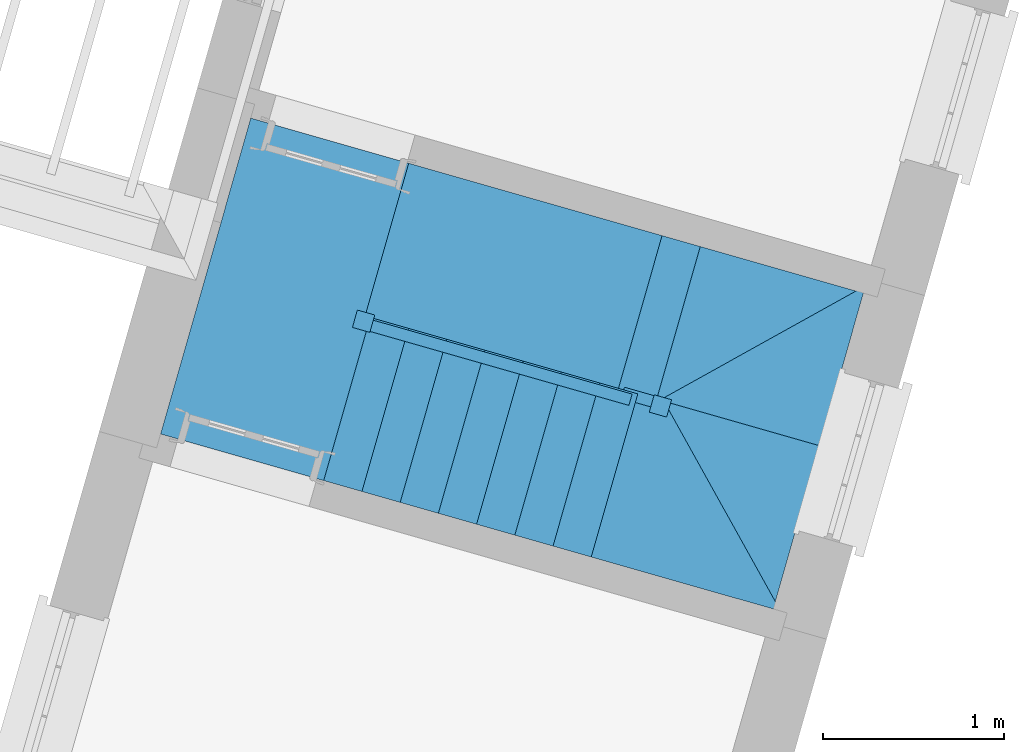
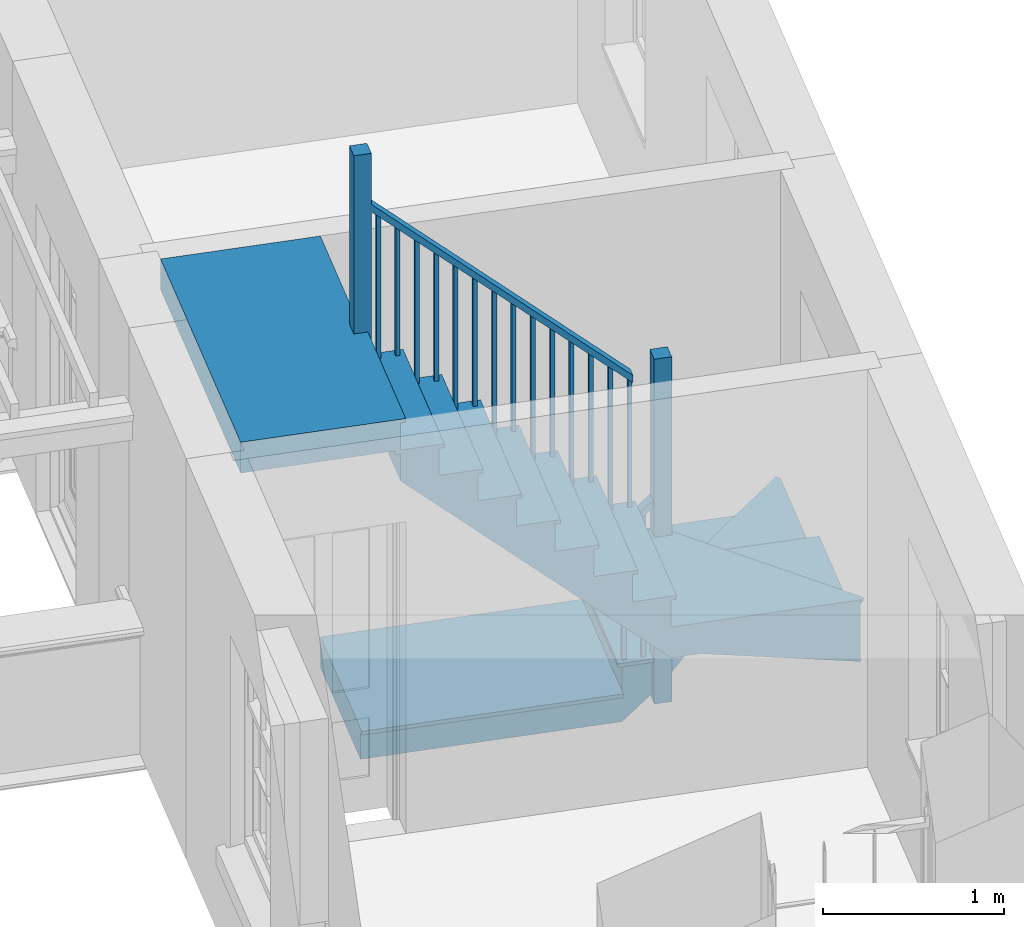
# One storey, part 6 of 6: 1 stair.
"""IFC4 building model written with IfcOpenShell, lengths in metres."""

from ifc_helpers import new_model, si_unit, frame, origin, origin_with_axes, place, context, subcontext, project, spatial, faceted_brep, element, save


model = new_model("IFC4")

# Units and contexts
model_context = context("Model", 3, world=origin_with_axes())
body_context = subcontext(model_context, "Body", "Model", "MODEL_VIEW")
ifc_project = project(units=[si_unit("PLANEANGLEUNIT", "RADIAN"), si_unit("MASSUNIT", "GRAM", prefix="KILO"), si_unit("FORCEUNIT", "NEWTON", prefix="KILO"), si_unit("LENGTHUNIT", "METRE"), si_unit("AREAUNIT", "SQUARE_METRE"), si_unit("VOLUMEUNIT", "CUBIC_METRE")], contexts=[model_context, model_context])

# Sites, building, storey
site_1_placement = place(None, origin_with_axes())
site_1 = spatial("IfcSite", under=ifc_project, at=site_1_placement, Name="Tamar")
site_2_placement = place(site_1_placement, origin_with_axes())
site_2 = spatial("IfcSite", under=site_1, at=site_2_placement, Name="Site plot-20", CompositionType="ELEMENT")
building_placement = place(None, origin_with_axes())
building = spatial("IfcBuilding", under=site_2, at=building_placement, Name="Building plot-20", CompositionType="ELEMENT")
storey_placement = place(None, frame((0.0, 0.0, 29.15), z_axis=(0.0, 0.0, 1.0), x_axis=(1.0, 0.0, 0.0)))
storey = spatial("IfcBuildingStorey", under=building, at=storey_placement, Name="plot-20 1", CompositionType="ELEMENT", Elevation=29.15)

# Stair
stair_placement = place(None, origin())
element("IfcStair", 1, at=stair_placement, inside=storey, Name="Stair", PredefinedType="NOTDEFINED", context=body_context, shape_type="Brep", body=[
    faceted_brep([(278.266774, 288.230048, 31.642308), (278.017167, 287.355896, 31.642308), (278.228712, 287.295491, 31.642308), (278.478319, 288.169643, 31.642308), (278.478319, 288.169643, 31.226923), (278.228712, 287.295491, 31.226923), (278.017167, 287.355896, 31.434615), (278.266774, 288.230048, 31.434615)], [[[0, 1, 2, 3]], [[4, 5, 6, 7]], [[7, 6, 1, 0]], [[1, 6, 5, 2]], [[5, 4, 3, 2]], [[3, 4, 7, 0]]]),
    faceted_brep([(278.228712, 287.295491, 31.617308), (278.257559, 287.287254, 31.617308), (278.228712, 287.295491, 31.642308), (277.98832, 287.364133, 31.617308), (278.017167, 287.355896, 31.617308), (278.017167, 287.355896, 31.642308), (278.257559, 287.287254, 31.642308), (277.98832, 287.364133, 31.642308), (278.515403, 288.190253, 31.642308), (278.478319, 288.169643, 31.642308), (278.478319, 288.169643, 31.617308), (278.515403, 288.190253, 31.617308), (278.246164, 288.267133, 31.642308), (278.266774, 288.230048, 31.642308), (278.266774, 288.230048, 31.617308), (278.246164, 288.267133, 31.617308)], [[[0, 1, 2]], [[3, 4, 5]], [[1, 6, 2]], [[7, 3, 5]], [[2, 6, 8, 9]], [[0, 2, 9, 10]], [[1, 0, 10, 11]], [[6, 1, 11, 8]], [[9, 8, 12, 13]], [[10, 9, 13, 14]], [[11, 10, 14, 15]], [[8, 11, 15, 12]], [[13, 12, 7, 5]], [[14, 13, 5, 4]], [[15, 14, 4, 3]], [[12, 15, 3, 7]]]),
    faceted_brep([(278.478319, 288.169643, 32.542308), (278.45428, 288.176508, 32.542308), (278.447416, 288.152469, 32.542308), (278.471455, 288.145604, 32.542308), (278.471455, 288.145604, 31.642308), (278.447416, 288.152469, 31.642308), (278.45428, 288.176508, 31.642308), (278.478319, 288.169643, 31.642308)], [[[0, 1, 2, 3]], [[4, 5, 6, 7]], [[7, 6, 1, 0]], [[6, 5, 2, 1]], [[5, 4, 3, 2]], [[4, 7, 0, 3]]]),
    faceted_brep([(278.372547, 288.199846, 32.646154), (278.348508, 288.20671, 32.646154), (278.341643, 288.182671, 32.646154), (278.365683, 288.175807, 32.646154), (278.365683, 288.175807, 31.642308), (278.341643, 288.182671, 31.642308), (278.348508, 288.20671, 31.642308), (278.372547, 288.199846, 31.642308)], [[[0, 1, 2, 3]], [[4, 5, 6, 7]], [[7, 6, 1, 0]], [[6, 5, 2, 1]], [[5, 4, 3, 2]], [[4, 7, 0, 3]]]),
    faceted_brep([(278.465964, 288.126373, 32.492308), (278.483811, 288.188875, 32.492308), (278.483811, 288.188875, 32.542308), (278.465964, 288.126373, 32.542308), (278.272266, 288.24928, 32.7), (278.254419, 288.186778, 32.7), (278.254419, 288.186778, 32.75), (278.272266, 288.24928, 32.75)], [[[0, 1, 2, 3]], [[4, 5, 6, 7]], [[0, 5, 4, 1]], [[3, 2, 7, 6]], [[0, 3, 6, 5]], [[2, 1, 4, 7]]]),
    faceted_brep([(278.478319, 288.169643, 31.434615), (278.228712, 287.295491, 31.434615), (278.440257, 287.235086, 31.434615), (278.689864, 288.109239, 31.434615), (278.689864, 288.109239, 31.019231), (278.440257, 287.235086, 31.019231), (278.228712, 287.295491, 31.226923), (278.478319, 288.169643, 31.226923)], [[[0, 1, 2, 3]], [[4, 5, 6, 7]], [[7, 6, 1, 0]], [[1, 6, 5, 2]], [[5, 4, 3, 2]], [[3, 4, 7, 0]]]),
    faceted_brep([(278.469104, 287.226849, 31.409615), (278.469104, 287.226849, 31.434615), (278.440257, 287.235086, 31.409615), (278.199865, 287.303728, 31.434615), (278.199865, 287.303728, 31.409615), (278.228712, 287.295491, 31.409615), (278.440257, 287.235086, 31.434615), (278.228712, 287.295491, 31.434615), (278.726948, 288.129848, 31.434615), (278.689864, 288.109239, 31.434615), (278.689864, 288.109239, 31.409615), (278.726948, 288.129848, 31.409615), (278.457709, 288.206728, 31.434615), (278.478319, 288.169643, 31.434615), (278.478319, 288.169643, 31.409615), (278.457709, 288.206728, 31.409615)], [[[0, 1, 2]], [[3, 4, 5]], [[2, 1, 6]], [[3, 5, 7]], [[6, 1, 8, 9]], [[2, 6, 9, 10]], [[0, 2, 10, 11]], [[1, 0, 11, 8]], [[9, 8, 12, 13]], [[10, 9, 13, 14]], [[11, 10, 14, 15]], [[8, 11, 15, 12]], [[13, 12, 3, 7]], [[14, 13, 7, 5]], [[15, 14, 5, 4]], [[12, 15, 4, 3]]]),
    faceted_brep([(278.689864, 288.109239, 32.334615), (278.665825, 288.116103, 32.334615), (278.658961, 288.092064, 32.334615), (278.683, 288.085199, 32.334615), (278.683, 288.085199, 31.434615), (278.658961, 288.092064, 31.434615), (278.665825, 288.116103, 31.434615), (278.689864, 288.109239, 31.434615)], [[[0, 1, 2, 3]], [[4, 5, 6, 7]], [[7, 6, 1, 0]], [[6, 5, 2, 1]], [[5, 4, 3, 2]], [[4, 7, 0, 3]]]),
    faceted_brep([(278.584092, 288.139441, 32.438462), (278.560053, 288.146305, 32.438462), (278.553188, 288.122266, 32.438462), (278.577228, 288.115402, 32.438462), (278.577228, 288.115402, 31.434615), (278.553188, 288.122266, 31.434615), (278.560053, 288.146305, 31.434615), (278.584092, 288.139441, 31.434615)], [[[0, 1, 2, 3]], [[4, 5, 6, 7]], [[7, 6, 1, 0]], [[6, 5, 2, 1]], [[5, 4, 3, 2]], [[4, 7, 0, 3]]]),
    faceted_brep([(278.677509, 288.065968, 32.284615), (278.695356, 288.12847, 32.284615), (278.695356, 288.12847, 32.334615), (278.677509, 288.065968, 32.334615), (278.483811, 288.188875, 32.492308), (278.465964, 288.126373, 32.492308), (278.465964, 288.126373, 32.542308), (278.483811, 288.188875, 32.542308)], [[[0, 1, 2, 3]], [[4, 5, 6, 7]], [[0, 5, 4, 1]], [[3, 2, 7, 6]], [[0, 3, 6, 5]], [[2, 1, 4, 7]]]),
    faceted_brep([(278.689864, 288.109239, 31.226923), (278.440257, 287.235086, 31.226923), (278.651802, 287.174681, 31.226923), (278.901409, 288.048834, 31.226923), (278.901409, 288.048834, 30.811538), (278.651802, 287.174681, 30.811538), (278.440257, 287.235086, 31.019231), (278.689864, 288.109239, 31.019231)], [[[0, 1, 2, 3]], [[4, 5, 6, 7]], [[7, 6, 1, 0]], [[1, 6, 5, 2]], [[5, 4, 3, 2]], [[3, 4, 7, 0]]]),
    faceted_brep([(278.651802, 287.174681, 31.201923), (278.680649, 287.166444, 31.201923), (278.651802, 287.174681, 31.226923), (278.41141, 287.243323, 31.201923), (278.440257, 287.235086, 31.201923), (278.440257, 287.235086, 31.226923), (278.680649, 287.166444, 31.226923), (278.41141, 287.243323, 31.226923), (278.938493, 288.069444, 31.226923), (278.901409, 288.048834, 31.226923), (278.901409, 288.048834, 31.201923), (278.938493, 288.069444, 31.201923), (278.669254, 288.146323, 31.226923), (278.689864, 288.109239, 31.226923), (278.689864, 288.109239, 31.201923), (278.669254, 288.146323, 31.201923)], [[[0, 1, 2]], [[3, 4, 5]], [[1, 6, 2]], [[7, 3, 5]], [[2, 6, 8, 9]], [[0, 2, 9, 10]], [[1, 0, 10, 11]], [[6, 1, 11, 8]], [[9, 8, 12, 13]], [[10, 9, 13, 14]], [[11, 10, 14, 15]], [[8, 11, 15, 12]], [[13, 12, 7, 5]], [[14, 13, 5, 4]], [[15, 14, 4, 3]], [[12, 15, 3, 7]]]),
    faceted_brep([(278.901409, 288.048834, 32.126923), (278.87737, 288.055698, 32.126923), (278.870506, 288.031659, 32.126923), (278.894545, 288.024794, 32.126923), (278.894545, 288.024794, 31.226923), (278.870506, 288.031659, 31.226923), (278.87737, 288.055698, 31.226923), (278.901409, 288.048834, 31.226923)], [[[0, 1, 2, 3]], [[4, 5, 6, 7]], [[7, 6, 1, 0]], [[6, 5, 2, 1]], [[5, 4, 3, 2]], [[4, 7, 0, 3]]]),
    faceted_brep([(278.795637, 288.079036, 32.230769), (278.771597, 288.0859, 32.230769), (278.764733, 288.061861, 32.230769), (278.788772, 288.054997, 32.230769), (278.788772, 288.054997, 31.226923), (278.764733, 288.061861, 31.226923), (278.771597, 288.0859, 31.226923), (278.795637, 288.079036, 31.226923)], [[[0, 1, 2, 3]], [[4, 5, 6, 7]], [[7, 6, 1, 0]], [[6, 5, 2, 1]], [[5, 4, 3, 2]], [[4, 7, 0, 3]]]),
    faceted_brep([(278.889053, 288.005563, 32.076923), (278.9069, 288.068065, 32.076923), (278.9069, 288.068065, 32.126923), (278.889053, 288.005563, 32.126923), (278.695356, 288.12847, 32.284615), (278.677509, 288.065968, 32.284615), (278.677509, 288.065968, 32.334615), (278.695356, 288.12847, 32.334615)], [[[0, 1, 2, 3]], [[4, 5, 6, 7]], [[0, 5, 4, 1]], [[3, 2, 7, 6]], [[0, 3, 6, 5]], [[2, 1, 4, 7]]]),
    faceted_brep([(278.901409, 288.048834, 31.019231), (278.651802, 287.174681, 31.019231), (278.863347, 287.114276, 31.019231), (279.112954, 287.988429, 31.019231), (279.112954, 287.988429, 30.603846), (278.863347, 287.114276, 30.603846), (278.651802, 287.174681, 30.811538), (278.901409, 288.048834, 30.811538)], [[[0, 1, 2, 3]], [[4, 5, 6, 7]], [[7, 6, 1, 0]], [[1, 6, 5, 2]], [[5, 4, 3, 2]], [[3, 4, 7, 0]]]),
    faceted_brep([(278.892194, 287.106039, 30.994231), (278.892194, 287.106039, 31.019231), (278.863347, 287.114276, 30.994231), (278.622955, 287.182918, 31.019231), (278.622955, 287.182918, 30.994231), (278.651802, 287.174681, 30.994231), (278.863347, 287.114276, 31.019231), (278.651802, 287.174681, 31.019231), (279.150038, 288.009039, 31.019231), (279.112954, 287.988429, 31.019231), (279.112954, 287.988429, 30.994231), (279.150038, 288.009039, 30.994231), (278.880799, 288.085918, 31.019231), (278.901409, 288.048834, 31.019231), (278.901409, 288.048834, 30.994231), (278.880799, 288.085918, 30.994231)], [[[0, 1, 2]], [[3, 4, 5]], [[2, 1, 6]], [[3, 5, 7]], [[6, 1, 8, 9]], [[2, 6, 9, 10]], [[0, 2, 10, 11]], [[1, 0, 11, 8]], [[9, 8, 12, 13]], [[10, 9, 13, 14]], [[11, 10, 14, 15]], [[8, 11, 15, 12]], [[13, 12, 3, 7]], [[14, 13, 7, 5]], [[15, 14, 5, 4]], [[12, 15, 4, 3]]]),
    faceted_brep([(279.112954, 287.988429, 31.919231), (279.088915, 287.995293, 31.919231), (279.082051, 287.971254, 31.919231), (279.10609, 287.964389, 31.919231), (279.10609, 287.964389, 31.019231), (279.082051, 287.971254, 31.019231), (279.088915, 287.995293, 31.019231), (279.112954, 287.988429, 31.019231)], [[[0, 1, 2, 3]], [[4, 5, 6, 7]], [[7, 6, 1, 0]], [[6, 5, 2, 1]], [[5, 4, 3, 2]], [[4, 7, 0, 3]]]),
    faceted_brep([(279.007182, 288.018631, 32.023077), (278.983142, 288.025495, 32.023077), (278.976278, 288.001456, 32.023077), (279.000317, 287.994592, 32.023077), (279.000317, 287.994592, 31.019231), (278.976278, 288.001456, 31.019231), (278.983142, 288.025495, 31.019231), (279.007182, 288.018631, 31.019231)], [[[0, 1, 2, 3]], [[4, 5, 6, 7]], [[7, 6, 1, 0]], [[6, 5, 2, 1]], [[5, 4, 3, 2]], [[4, 7, 0, 3]]]),
    faceted_brep([(279.100598, 287.945158, 31.869231), (279.118445, 288.00766, 31.869231), (279.118445, 288.00766, 31.919231), (279.100598, 287.945158, 31.919231), (278.9069, 288.068065, 32.076923), (278.889053, 288.005563, 32.076923), (278.889053, 288.005563, 32.126923), (278.9069, 288.068065, 32.126923)], [[[0, 1, 2, 3]], [[4, 5, 6, 7]], [[0, 5, 4, 1]], [[3, 2, 7, 6]], [[0, 3, 6, 5]], [[2, 1, 4, 7]]]),
    faceted_brep([(279.112954, 287.988429, 30.811538), (278.863347, 287.114276, 30.811538), (279.074891, 287.053871, 30.811538), (279.324499, 287.928024, 30.811538), (279.324499, 287.928024, 30.396154), (279.074891, 287.053871, 30.396154), (278.863347, 287.114276, 30.603846), (279.112954, 287.988429, 30.603846)], [[[0, 1, 2, 3]], [[4, 5, 6, 7]], [[7, 6, 1, 0]], [[1, 6, 5, 2]], [[5, 4, 3, 2]], [[3, 4, 7, 0]]]),
    faceted_brep([(279.074891, 287.053871, 30.786538), (279.103739, 287.045634, 30.786538), (279.074891, 287.053871, 30.811538), (278.8345, 287.122513, 30.786538), (278.863347, 287.114276, 30.786538), (278.863347, 287.114276, 30.811538), (279.103739, 287.045634, 30.811538), (278.8345, 287.122513, 30.811538), (279.361583, 287.948634, 30.811538), (279.324499, 287.928024, 30.811538), (279.324499, 287.928024, 30.786538), (279.361583, 287.948634, 30.786538), (279.092344, 288.025513, 30.811538), (279.112954, 287.988429, 30.811538), (279.112954, 287.988429, 30.786538), (279.092344, 288.025513, 30.786538)], [[[0, 1, 2]], [[3, 4, 5]], [[1, 6, 2]], [[7, 3, 5]], [[2, 6, 8, 9]], [[0, 2, 9, 10]], [[1, 0, 10, 11]], [[6, 1, 11, 8]], [[9, 8, 12, 13]], [[10, 9, 13, 14]], [[11, 10, 14, 15]], [[8, 11, 15, 12]], [[13, 12, 7, 5]], [[14, 13, 5, 4]], [[15, 14, 4, 3]], [[12, 15, 3, 7]]]),
    faceted_brep([(279.324499, 287.928024, 31.711538), (279.30046, 287.934888, 31.711538), (279.293595, 287.910849, 31.711538), (279.317635, 287.903984, 31.711538), (279.317635, 287.903984, 30.811538), (279.293595, 287.910849, 30.811538), (279.30046, 287.934888, 30.811538), (279.324499, 287.928024, 30.811538)], [[[0, 1, 2, 3]], [[4, 5, 6, 7]], [[7, 6, 1, 0]], [[6, 5, 2, 1]], [[5, 4, 3, 2]], [[4, 7, 0, 3]]]),
    faceted_brep([(279.218726, 287.958226, 31.815385), (279.194687, 287.96509, 31.815385), (279.187823, 287.941051, 31.815385), (279.211862, 287.934187, 31.815385), (279.211862, 287.934187, 30.811538), (279.187823, 287.941051, 30.811538), (279.194687, 287.96509, 30.811538), (279.218726, 287.958226, 30.811538)], [[[0, 1, 2, 3]], [[4, 5, 6, 7]], [[7, 6, 1, 0]], [[6, 5, 2, 1]], [[5, 4, 3, 2]], [[4, 7, 0, 3]]]),
    faceted_brep([(279.312143, 287.884753, 31.661538), (279.32999, 287.947255, 31.661538), (279.32999, 287.947255, 31.711538), (279.312143, 287.884753, 31.711538), (279.118445, 288.00766, 31.869231), (279.100598, 287.945158, 31.869231), (279.100598, 287.945158, 31.919231), (279.118445, 288.00766, 31.919231)], [[[0, 1, 2, 3]], [[4, 5, 6, 7]], [[0, 5, 4, 1]], [[3, 2, 7, 6]], [[0, 3, 6, 5]], [[2, 1, 4, 7]]]),
    faceted_brep([(279.324499, 287.928024, 30.603846), (279.074891, 287.053871, 30.603846), (279.286436, 286.993466, 30.603846), (279.536044, 287.867619, 30.603846), (279.536044, 287.867619, 30.188462), (279.286436, 286.993466, 30.188462), (279.074891, 287.053871, 30.396154), (279.324499, 287.928024, 30.396154)], [[[0, 1, 2, 3]], [[4, 5, 6, 7]], [[7, 6, 1, 0]], [[1, 6, 5, 2]], [[5, 4, 3, 2]], [[3, 4, 7, 0]]]),
    faceted_brep([(279.286436, 286.993466, 30.578846), (279.315283, 286.985229, 30.578846), (279.286436, 286.993466, 30.603846), (279.046044, 287.062108, 30.578846), (279.074891, 287.053871, 30.578846), (279.074891, 287.053871, 30.603846), (279.315283, 286.985229, 30.603846), (279.046044, 287.062108, 30.603846), (279.573128, 287.888229, 30.603846), (279.536044, 287.867619, 30.603846), (279.536044, 287.867619, 30.578846), (279.573128, 287.888229, 30.578846), (279.303889, 287.965108, 30.603846), (279.324499, 287.928024, 30.603846), (279.324499, 287.928024, 30.578846), (279.303889, 287.965108, 30.578846)], [[[0, 1, 2]], [[3, 4, 5]], [[1, 6, 2]], [[7, 3, 5]], [[2, 6, 8, 9]], [[0, 2, 9, 10]], [[1, 0, 10, 11]], [[6, 1, 11, 8]], [[9, 8, 12, 13]], [[10, 9, 13, 14]], [[11, 10, 14, 15]], [[8, 11, 15, 12]], [[13, 12, 7, 5]], [[14, 13, 5, 4]], [[15, 14, 4, 3]], [[12, 15, 3, 7]]]),
    faceted_brep([(279.536044, 287.867619, 31.503846), (279.512005, 287.874483, 31.503846), (279.50514, 287.850444, 31.503846), (279.52918, 287.843579, 31.503846), (279.52918, 287.843579, 30.603846), (279.50514, 287.850444, 30.603846), (279.512005, 287.874483, 30.603846), (279.536044, 287.867619, 30.603846)], [[[0, 1, 2, 3]], [[4, 5, 6, 7]], [[7, 6, 1, 0]], [[6, 5, 2, 1]], [[5, 4, 3, 2]], [[4, 7, 0, 3]]]),
    faceted_brep([(279.430271, 287.897821, 31.607692), (279.406232, 287.904685, 31.607692), (279.399368, 287.880646, 31.607692), (279.423407, 287.873782, 31.607692), (279.423407, 287.873782, 30.603846), (279.399368, 287.880646, 30.603846), (279.406232, 287.904685, 30.603846), (279.430271, 287.897821, 30.603846)], [[[0, 1, 2, 3]], [[4, 5, 6, 7]], [[7, 6, 1, 0]], [[6, 5, 2, 1]], [[5, 4, 3, 2]], [[4, 7, 0, 3]]]),
    faceted_brep([(279.523688, 287.824348, 31.453846), (279.541535, 287.88685, 31.453846), (279.541535, 287.88685, 31.503846), (279.523688, 287.824348, 31.503846), (279.32999, 287.947255, 31.661538), (279.312143, 287.884753, 31.661538), (279.312143, 287.884753, 31.711538), (279.32999, 287.947255, 31.711538)], [[[0, 1, 2, 3]], [[4, 5, 6, 7]], [[0, 5, 4, 1]], [[3, 2, 7, 6]], [[0, 3, 6, 5]], [[2, 1, 4, 7]]]),
    faceted_brep([(279.536044, 287.867619, 30.396154), (279.286436, 286.993466, 30.396154), (279.497981, 286.933061, 30.396154), (279.747589, 287.807214, 30.396154), (279.747589, 287.807214, 29.980769), (279.497981, 286.933061, 29.980769), (279.286436, 286.993466, 30.188462), (279.536044, 287.867619, 30.188462)], [[[0, 1, 2, 3]], [[4, 5, 6, 7]], [[7, 6, 1, 0]], [[1, 6, 5, 2]], [[5, 4, 3, 2]], [[3, 4, 7, 0]]]),
    faceted_brep([(279.526828, 286.924824, 30.371154), (279.526828, 286.924824, 30.396154), (279.497981, 286.933061, 30.371154), (279.257589, 287.001703, 30.396154), (279.257589, 287.001703, 30.371154), (279.286436, 286.993466, 30.371154), (279.497981, 286.933061, 30.396154), (279.286436, 286.993466, 30.396154), (279.784673, 287.827824, 30.396154), (279.747589, 287.807214, 30.396154), (279.747589, 287.807214, 30.371154), (279.784673, 287.827824, 30.371154), (279.515434, 287.904703, 30.396154), (279.536044, 287.867619, 30.396154), (279.536044, 287.867619, 30.371154), (279.515434, 287.904703, 30.371154)], [[[0, 1, 2]], [[3, 4, 5]], [[2, 1, 6]], [[3, 5, 7]], [[6, 1, 8, 9]], [[2, 6, 9, 10]], [[0, 2, 10, 11]], [[1, 0, 11, 8]], [[9, 8, 12, 13]], [[10, 9, 13, 14]], [[11, 10, 14, 15]], [[8, 11, 15, 12]], [[13, 12, 3, 7]], [[14, 13, 7, 5]], [[15, 14, 5, 4]], [[12, 15, 4, 3]]]),
    faceted_brep([(279.747589, 287.807214, 31.296154), (279.723549, 287.814078, 31.296154), (279.716685, 287.790039, 31.296154), (279.740724, 287.783174, 31.296154), (279.740724, 287.783174, 30.396154), (279.716685, 287.790039, 30.396154), (279.723549, 287.814078, 30.396154), (279.747589, 287.807214, 30.396154)], [[[0, 1, 2, 3]], [[4, 5, 6, 7]], [[7, 6, 1, 0]], [[6, 5, 2, 1]], [[5, 4, 3, 2]], [[4, 7, 0, 3]]]),
    faceted_brep([(279.641816, 287.837416, 31.4), (279.617777, 287.84428, 31.4), (279.610913, 287.820241, 31.4), (279.634952, 287.813377, 31.4), (279.634952, 287.813377, 30.396154), (279.610913, 287.820241, 30.396154), (279.617777, 287.84428, 30.396154), (279.641816, 287.837416, 30.396154)], [[[0, 1, 2, 3]], [[4, 5, 6, 7]], [[7, 6, 1, 0]], [[6, 5, 2, 1]], [[5, 4, 3, 2]], [[4, 7, 0, 3]]]),
    faceted_brep([(279.735233, 287.763943, 31.246154), (279.75308, 287.826445, 31.246154), (279.75308, 287.826445, 31.296154), (279.735233, 287.763943, 31.296154), (279.541535, 287.88685, 31.453846), (279.523688, 287.824348, 31.453846), (279.523688, 287.824348, 31.503846), (279.541535, 287.88685, 31.503846)], [[[0, 1, 2, 3]], [[4, 5, 6, 7]], [[0, 5, 4, 1]], [[3, 2, 7, 6]], [[0, 3, 6, 5]], [[2, 1, 4, 7]]]),
    faceted_brep([(279.747589, 287.807214, 30.188462), (279.497981, 286.933061, 30.188462), (279.660089, 286.886773, 30.188462), (279.909697, 287.760925, 30.188462), (279.909697, 287.760925, 29.980769), (279.660089, 286.886773, 29.980769), (279.497981, 286.933061, 29.980769), (279.747589, 287.807214, 29.980769)], [[[0, 1, 2, 3]], [[4, 5, 6, 7]], [[7, 6, 1, 0]], [[6, 5, 2, 1]], [[5, 4, 3, 2]], [[4, 7, 0, 3]]]),
    faceted_brep([(279.909697, 287.760925, 30.163462), (279.917934, 287.789772, 30.163462), (279.909697, 287.760925, 30.188462), (279.755826, 287.836061, 30.163462), (279.747589, 287.807214, 30.163462), (279.747589, 287.807214, 30.188462), (279.917934, 287.789772, 30.188462), (279.755826, 287.836061, 30.188462)], [[[0, 1, 2]], [[3, 4, 5]], [[1, 6, 2]], [[7, 3, 5]], [[2, 6, 7, 5]], [[0, 2, 5, 4]], [[1, 0, 4, 3]], [[6, 1, 3, 7]]]),
    faceted_brep([(279.971503, 287.795275, 31.388462), (279.875347, 287.822732, 31.388462), (279.84789, 287.726575, 31.388462), (279.944047, 287.699118, 31.388462), (279.944047, 287.699118, 30.188462), (279.84789, 287.726575, 30.188462), (279.875347, 287.822732, 30.188462), (279.971503, 287.795275, 30.188462)], [[[0, 1, 2, 3]], [[4, 5, 6, 7]], [[7, 6, 1, 0]], [[6, 5, 2, 1]], [[5, 4, 3, 2]], [[4, 7, 0, 3]]]),
    faceted_brep([(279.660089, 286.886773, 30.188462), (280.534242, 286.637165, 30.188462), (279.909697, 287.760925, 30.188462), (279.909697, 287.760925, 29.773077), (280.534242, 286.637165, 29.773077), (279.660089, 286.886773, 29.980769)], [[[0, 1, 2]], [[3, 4, 5]], [[0, 5, 4, 1]], [[4, 3, 2, 1]], [[2, 3, 5, 0]]]),
    faceted_brep([(280.560464, 286.651739, 30.163462), (280.560464, 286.651739, 30.188462), (280.534242, 286.637165, 30.163462), (279.935919, 287.775498, 30.188462), (279.935919, 287.775498, 30.163462), (279.909697, 287.760925, 30.163462), (280.534242, 286.637165, 30.188462), (279.909697, 287.760925, 30.188462)], [[[0, 1, 2]], [[3, 4, 5]], [[2, 1, 6]], [[3, 5, 7]], [[6, 1, 3, 7]], [[2, 6, 7, 5]], [[0, 2, 5, 4]], [[1, 0, 4, 3]]]),
    faceted_brep([(280.534242, 286.637165, 29.980769), (280.783849, 287.511318, 29.980769), (279.909697, 287.760925, 29.980769), (279.909697, 287.760925, 29.565385), (280.783849, 287.511318, 29.565385), (280.534242, 286.637165, 29.773077)], [[[0, 1, 2]], [[3, 4, 5]], [[0, 5, 4, 1]], [[4, 3, 2, 1]], [[2, 3, 5, 0]]]),
    faceted_brep([(280.783849, 287.511318, 29.955769), (280.792086, 287.540165, 29.955769), (280.783849, 287.511318, 29.980769), (279.917934, 287.789772, 29.955769), (279.909697, 287.760925, 29.955769), (279.909697, 287.760925, 29.980769), (280.792086, 287.540165, 29.980769), (279.917934, 287.789772, 29.980769)], [[[0, 1, 2]], [[3, 4, 5]], [[1, 6, 2]], [[7, 3, 5]], [[2, 6, 7, 5]], [[0, 2, 5, 4]], [[1, 0, 4, 3]], [[6, 1, 3, 7]]]),
    faceted_brep([(279.971503, 287.795275, 30.188462), (279.875347, 287.822732, 30.188462), (279.84789, 287.726575, 30.188462), (279.944047, 287.699118, 30.188462), (279.944047, 287.699118, 29.480769), (279.84789, 287.726575, 29.480769), (279.875347, 287.822732, 29.480769), (279.971503, 287.795275, 29.480769)], [[[0, 1, 2, 3]], [[4, 5, 6, 7]], [[7, 6, 1, 0]], [[6, 5, 2, 1]], [[5, 4, 3, 2]], [[4, 7, 0, 3]]]),
    faceted_brep([(279.909697, 287.760925, 29.565385), (280.783849, 287.511318, 29.565385), (280.783849, 287.511318, 29.773077), (279.909697, 287.760925, 29.773077)], [[[0, 1, 2, 3]], [[1, 0, 3, 2]]]),
    faceted_brep([(279.909697, 287.760925, 29.748077), (279.909697, 287.730925, 29.748077), (279.909697, 287.760925, 29.773077), (279.909697, 287.730925, 29.773077)], [[[0, 1, 2]], [[1, 0, 2]], [[1, 3, 2]], [[3, 1, 2]]]),
    faceted_brep([(279.875347, 287.822732, 30.973077), (279.84789, 287.726575, 30.973077), (279.944047, 287.699118, 30.973077), (279.971503, 287.795275, 30.973077), (279.971503, 287.795275, 29.773077), (279.944047, 287.699118, 29.773077), (279.84789, 287.726575, 29.773077), (279.875347, 287.822732, 29.773077)], [[[0, 1, 2, 3]], [[4, 5, 6, 7]], [[7, 6, 1, 0]], [[6, 5, 2, 1]], [[5, 4, 3, 2]], [[4, 7, 0, 3]]]),
    faceted_brep([(280.783849, 287.511318, 29.773077), (281.033456, 288.38547, 29.773077), (279.909697, 287.760925, 29.773077), (279.909697, 287.760925, 29.357692), (281.033456, 288.38547, 29.357692), (280.783849, 287.511318, 29.565385)], [[[0, 1, 2]], [[3, 4, 5]], [[0, 5, 4, 1]], [[4, 3, 2, 1]], [[2, 3, 5, 0]]]),
    faceted_brep([(281.018883, 288.411692, 29.748077), (281.018883, 288.411692, 29.773077), (281.033456, 288.38547, 29.748077), (279.895123, 287.787147, 29.773077), (279.895123, 287.787147, 29.748077), (279.909697, 287.760925, 29.748077), (281.033456, 288.38547, 29.773077), (279.909697, 287.760925, 29.773077)], [[[0, 1, 2]], [[3, 4, 5]], [[2, 1, 6]], [[3, 5, 7]], [[6, 1, 3, 7]], [[2, 6, 7, 5]], [[0, 2, 5, 4]], [[1, 0, 4, 3]]]),
    faceted_brep([(281.033456, 288.38547, 29.565385), (280.159304, 288.635077, 29.565385), (279.909697, 287.760925, 29.565385), (279.909697, 287.760925, 29.15), (280.159304, 288.635077, 29.15), (281.033456, 288.38547, 29.357692)], [[[0, 1, 2]], [[3, 4, 5]], [[0, 5, 4, 1]], [[4, 3, 2, 1]], [[2, 3, 5, 0]]]),
    faceted_brep([(280.159304, 288.635077, 29.540385), (280.130457, 288.643314, 29.540385), (280.159304, 288.635077, 29.565385), (279.88085, 287.769162, 29.540385), (279.909697, 287.760925, 29.540385), (279.909697, 287.760925, 29.565385), (280.130457, 288.643314, 29.565385), (279.88085, 287.769162, 29.565385)], [[[0, 1, 2]], [[3, 4, 5]], [[1, 6, 2]], [[7, 3, 5]], [[2, 6, 7, 5]], [[0, 2, 5, 4]], [[1, 0, 4, 3]], [[6, 1, 3, 7]]]),
    faceted_brep([(279.875347, 287.822732, 29.773077), (279.84789, 287.726575, 29.773077), (279.944047, 287.699118, 29.773077), (279.971503, 287.795275, 29.773077), (279.971503, 287.795275, 29.065385), (279.944047, 287.699118, 29.065385), (279.84789, 287.726575, 29.065385), (279.875347, 287.822732, 29.065385)], [[[0, 1, 2, 3]], [[4, 5, 6, 7]], [[7, 6, 1, 0]], [[6, 5, 2, 1]], [[5, 4, 3, 2]], [[4, 7, 0, 3]]]),
    faceted_brep([(279.909697, 287.760925, 29.357692), (280.159304, 288.635077, 29.357692), (279.947759, 288.695482, 29.357692), (279.698152, 287.82133, 29.357692), (279.698152, 287.82133, 28.942308), (279.947759, 288.695482, 28.942308), (280.159304, 288.635077, 29.15), (279.909697, 287.760925, 29.15)], [[[0, 1, 2, 3]], [[4, 5, 6, 7]], [[7, 6, 1, 0]], [[1, 6, 5, 2]], [[5, 4, 3, 2]], [[3, 4, 7, 0]]]),
    faceted_brep([(279.947759, 288.695482, 29.332692), (279.918912, 288.703719, 29.332692), (279.947759, 288.695482, 29.357692), (280.188151, 288.62684, 29.332692), (280.159304, 288.635077, 29.332692), (280.159304, 288.635077, 29.357692), (279.918912, 288.703719, 29.357692), (280.188151, 288.62684, 29.357692), (279.661068, 287.80072, 29.357692), (279.698152, 287.82133, 29.357692), (279.698152, 287.82133, 29.332692), (279.661068, 287.80072, 29.332692), (279.930307, 287.723841, 29.357692), (279.909697, 287.760925, 29.357692), (279.909697, 287.760925, 29.332692), (279.930307, 287.723841, 29.332692)], [[[0, 1, 2]], [[3, 4, 5]], [[1, 6, 2]], [[7, 3, 5]], [[2, 6, 8, 9]], [[0, 2, 9, 10]], [[1, 0, 10, 11]], [[6, 1, 11, 8]], [[9, 8, 12, 13]], [[10, 9, 13, 14]], [[11, 10, 14, 15]], [[8, 11, 15, 12]], [[13, 12, 7, 5]], [[14, 13, 5, 4]], [[15, 14, 4, 3]], [[12, 15, 3, 7]]]),
    faceted_brep([(279.698152, 287.82133, 30.257692), (279.722191, 287.814466, 30.257692), (279.729055, 287.838505, 30.257692), (279.705016, 287.845369, 30.257692), (279.705016, 287.845369, 29.357692), (279.729055, 287.838505, 29.357692), (279.722191, 287.814466, 29.357692), (279.698152, 287.82133, 29.357692)], [[[0, 1, 2, 3]], [[4, 5, 6, 7]], [[7, 6, 1, 0]], [[6, 5, 2, 1]], [[5, 4, 3, 2]], [[4, 7, 0, 3]]]),
    faceted_brep([(279.803924, 287.791127, 30.361538), (279.827963, 287.784263, 30.361538), (279.834828, 287.808302, 30.361538), (279.810788, 287.815167, 30.361538), (279.810788, 287.815167, 29.357692), (279.834828, 287.808302, 29.357692), (279.827963, 287.784263, 29.357692), (279.803924, 287.791127, 29.357692)], [[[0, 1, 2, 3]], [[4, 5, 6, 7]], [[7, 6, 1, 0]], [[6, 5, 2, 1]], [[5, 4, 3, 2]], [[4, 7, 0, 3]]]),
    faceted_brep([(279.710507, 287.8646, 30.207692), (279.69266, 287.802099, 30.207692), (279.69266, 287.802099, 30.257692), (279.710507, 287.8646, 30.257692), (279.904205, 287.741694, 30.415385), (279.922052, 287.804195, 30.415385), (279.922052, 287.804195, 30.465385), (279.904205, 287.741694, 30.465385)], [[[0, 1, 2, 3]], [[4, 5, 6, 7]], [[0, 5, 4, 1]], [[3, 2, 7, 6]], [[0, 3, 6, 5]], [[2, 1, 4, 7]]]),
    faceted_brep([(279.698152, 287.82133, 29.15), (279.947759, 288.695482, 29.15), (278.516382, 289.104201, 29.15), (278.266774, 288.230048, 29.15), (278.266774, 288.230048, 28.942308), (278.516382, 289.104201, 28.942308), (279.947759, 288.695482, 28.942308), (279.698152, 287.82133, 28.942308)], [[[0, 1, 2, 3]], [[4, 5, 6, 7]], [[7, 6, 1, 0]], [[6, 5, 2, 1]], [[5, 4, 3, 2]], [[4, 7, 0, 3]]]),
    faceted_brep([(278.266774, 288.230048, 29.125), (278.258537, 288.201201, 29.125), (278.266774, 288.230048, 29.15), (279.689915, 287.792483, 29.125), (279.698152, 287.82133, 29.125), (279.698152, 287.82133, 29.15), (278.258537, 288.201201, 29.15), (279.689915, 287.792483, 29.15)], [[[0, 1, 2]], [[3, 4, 5]], [[1, 6, 2]], [[7, 3, 5]], [[2, 6, 7, 5]], [[0, 2, 5, 4]], [[1, 0, 4, 3]], [[6, 1, 3, 7]]]),
    faceted_brep([(278.204968, 288.195699, 33.05), (278.301124, 288.168242, 33.05), (278.328581, 288.264398, 33.05), (278.232424, 288.291855, 33.05), (278.232424, 288.291855, 31.85), (278.328581, 288.264398, 31.85), (278.301124, 288.168242, 31.85), (278.204968, 288.195699, 31.85)], [[[0, 1, 2, 3]], [[4, 5, 6, 7]], [[7, 6, 1, 0]], [[6, 5, 2, 1]], [[5, 4, 3, 2]], [[4, 7, 0, 3]]]),
    faceted_brep([(278.266774, 288.230048, 31.85), (278.516382, 289.104201, 31.85), (277.642229, 289.353808, 31.85), (277.392622, 288.479656, 31.85), (277.392622, 288.479656, 31.642308), (277.642229, 289.353808, 31.642308), (278.516382, 289.104201, 31.642308), (278.266774, 288.230048, 31.642308)], [[[0, 1, 2, 3]], [[4, 5, 6, 7]], [[7, 6, 1, 0]], [[6, 5, 2, 1]], [[5, 4, 3, 2]], [[4, 7, 0, 3]]]),
    faceted_brep([(277.392622, 288.479656, 31.825), (277.384385, 288.450809, 31.825), (277.392622, 288.479656, 31.85), (278.258537, 288.201201, 31.825), (278.266774, 288.230048, 31.825), (278.266774, 288.230048, 31.85), (277.384385, 288.450809, 31.85), (278.258537, 288.201201, 31.85)], [[[0, 1, 2]], [[3, 4, 5]], [[1, 6, 2]], [[7, 3, 5]], [[2, 6, 7, 5]], [[0, 2, 5, 4]], [[1, 0, 4, 3]], [[6, 1, 3, 7]]]),
    faceted_brep([(278.204968, 288.195699, 31.85), (278.301124, 288.168242, 31.85), (278.328581, 288.264398, 31.85), (278.232424, 288.291855, 31.85), (278.232424, 288.291855, 31.35), (278.328581, 288.264398, 31.35), (278.301124, 288.168242, 31.35), (278.204968, 288.195699, 31.35)], [[[0, 1, 2, 3]], [[4, 5, 6, 7]], [[7, 6, 1, 0]], [[6, 5, 2, 1]], [[5, 4, 3, 2]], [[4, 7, 0, 3]]]),
    faceted_brep([(278.266774, 288.230048, 31.642308), (277.392622, 288.479656, 31.642308), (277.392622, 288.479656, 31.85), (278.266774, 288.230048, 31.85)], [[[0, 1, 2, 3]], [[1, 0, 3, 2]]]),
    faceted_brep([(278.266774, 288.230048, 31.825), (278.241813, 288.246689, 31.825), (278.266774, 288.230048, 31.85), (278.241813, 288.246689, 31.85)], [[[0, 1, 2]], [[1, 0, 2]], [[1, 3, 2]], [[3, 1, 2]]]),
    faceted_brep([(278.301124, 288.168242, 33.05), (278.328581, 288.264398, 33.05), (278.232424, 288.291855, 33.05), (278.204968, 288.195699, 33.05), (278.204968, 288.195699, 31.85), (278.232424, 288.291855, 31.85), (278.328581, 288.264398, 31.85), (278.301124, 288.168242, 31.85)], [[[0, 1, 2, 3]], [[4, 5, 6, 7]], [[7, 6, 1, 0]], [[6, 5, 2, 1]], [[5, 4, 3, 2]], [[4, 7, 0, 3]]]),
    faceted_brep([(278.266774, 288.230048, 31.85), (277.392622, 288.479656, 31.85), (277.143015, 287.605504, 31.85), (278.017167, 287.355896, 31.85), (278.017167, 287.355896, 31.642308), (277.143015, 287.605504, 31.642308), (277.392622, 288.479656, 31.642308), (278.266774, 288.230048, 31.642308)], [[[0, 1, 2, 3]], [[4, 5, 6, 7]], [[7, 6, 1, 0]], [[6, 5, 2, 1]], [[5, 4, 3, 2]], [[4, 7, 0, 3]]]),
    faceted_brep([(278.017167, 287.355896, 31.825), (278.046014, 287.347659, 31.825), (278.017167, 287.355896, 31.85), (278.295621, 288.221811, 31.825), (278.266774, 288.230048, 31.825), (278.266774, 288.230048, 31.85), (278.046014, 287.347659, 31.85), (278.295621, 288.221811, 31.85)], [[[0, 1, 2]], [[3, 4, 5]], [[1, 6, 2]], [[7, 3, 5]], [[2, 6, 7, 5]], [[0, 2, 5, 4]], [[1, 0, 4, 3]], [[6, 1, 3, 7]]]),
    faceted_brep([(278.301124, 288.168242, 31.85), (278.328581, 288.264398, 31.85), (278.232424, 288.291855, 31.85), (278.204968, 288.195699, 31.85), (278.204968, 288.195699, 31.35), (278.232424, 288.291855, 31.35), (278.328581, 288.264398, 31.35), (278.301124, 288.168242, 31.35)], [[[0, 1, 2, 3]], [[4, 5, 6, 7]], [[7, 6, 1, 0]], [[6, 5, 2, 1]], [[5, 4, 3, 2]], [[4, 7, 0, 3]]]),
])

save(model, "model.ifc")
